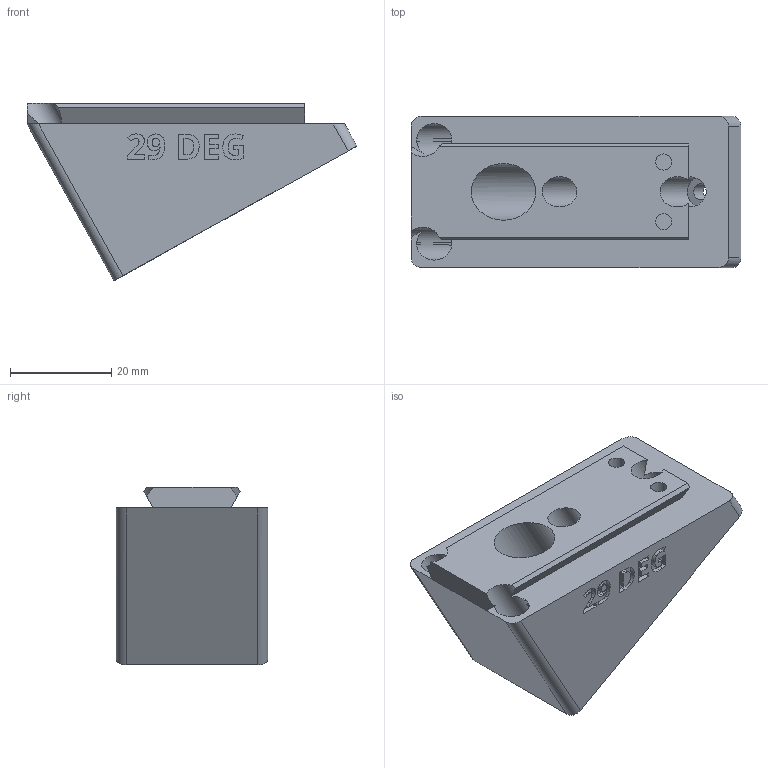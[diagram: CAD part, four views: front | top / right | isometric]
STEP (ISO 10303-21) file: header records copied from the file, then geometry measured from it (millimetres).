
FILE_DESCRIPTION(/* description */ ('STEP AP242 Edition 2','CAx-IF Rec.Pracs.---Representation and Presentation of Product Manufacturing Information (PMI)---4.0---2014-10-13','CAx-IF Rec.Pracs.---3D Tessellated Geometry---0.4---2014-09-14','2;1','CAx-IF Rec.Pracs.---User Defined Attributes---1.5---2016-08-15'),/* implementation_level */ '2;1');
FILE_NAME(/* name */ 'Camera Wedges - CAMERA MOUNTING WEDGE, POS, 29 DEG',/* time_stamp */ '2026-07-08T20:39:19Z',/* author */ (''),/* organization */ (''),/* preprocessor_version */ 'ST-DEVELOPER v20',/* originating_system */ 'ONSHAPE BY PTC INC, 1.217',/* authorisation */ ' ');
FILE_SCHEMA (('AP242_MANAGED_MODEL_BASED_3D_ENGINEERING_MIM_LF { 1 0 10303 442 3 1 4 }'));
Length unit declared in the file: metre
Products named in the file (1): CAMERA MOUNTING WEDGE, POS, 29 DEG
Bounding box: 65.31 x 30 x 35.14 mm (x, y, z)
Volume: 30749.1 mm3; surface area: 10780.2 mm2
Topology: 1 solids, 1 shells, 276 faces, 765 edges, 510 vertices
Faces by surface type: plane 132, bspline 86, cylinder 58
Full cylindrical faces by diameter (mm): 3.2 x4, 6 x2, 6.4 x1, 11.2 x1
Entity records: 9079 total; most frequent: CARTESIAN_POINT 2484, ORIENTED_EDGE 1508, DIRECTION 1095, EDGE_CURVE 754, VERTEX_POINT 507, LINE 451, VECTOR 451, AXIS2_PLACEMENT_3D 322
